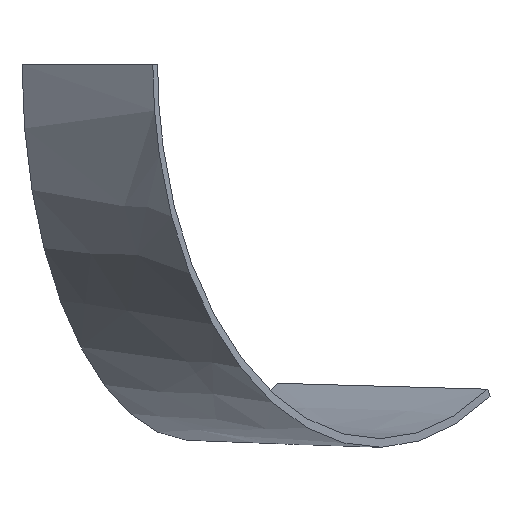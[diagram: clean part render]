
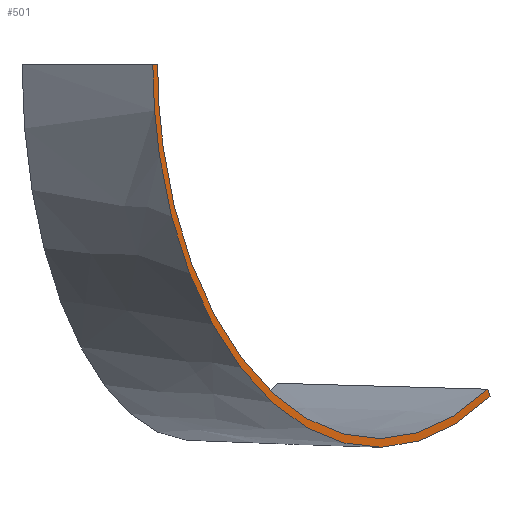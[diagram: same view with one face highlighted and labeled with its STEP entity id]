
A CAD part, left-side view. The second image highlights one B-rep face of the part: STEP entity #501.
In plain terms, the highlighted free-form (B-spline) face has degree [1, 3] with [2, 10] control points.
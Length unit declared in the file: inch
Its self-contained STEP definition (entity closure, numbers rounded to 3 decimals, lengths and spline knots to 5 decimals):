
#12 = VERTEX_POINT ( 'NONE', #225 ) ;
#50 = CARTESIAN_POINT ( 'NONE',  ( 70.58693, -51.2844, -0.125 ) ) ;
#55 = CARTESIAN_POINT ( 'NONE',  ( 92.29914, -67.04143, -33.48868 ) ) ;
#71 = VERTEX_POINT ( 'NONE', #499 ) ;
#72 = CARTESIAN_POINT ( 'NONE',  ( 70.58693, -51.2844, -0.125 ) ) ;
#78 = B_SPLINE_CURVE_WITH_KNOTS ( 'NONE', 1,
 ( #72, #587 ),
 .UNSPECIFIED., .F., .F.,
 ( 2, 2 ),
 ( 0., 1. ),
 .UNSPECIFIED. ) ;
#86 = CARTESIAN_POINT ( 'NONE',  ( 69.96491, -50.86537, -0.12786 ) ) ;
#87 = CARTESIAN_POINT ( 'NONE',  ( 110.24202, -80.09551, -28.42463 ) ) ;
#94 = CARTESIAN_POINT ( 'NONE',  ( 92.29914, -67.04143, -33.48868 ) ) ;
#100 = CARTESIAN_POINT ( 'NONE',  ( 69.98302, -50.87849, -5.98634 ) ) ;
#109 = B_SPLINE_CURVE_WITH_KNOTS ( 'NONE', 3,
 ( #189, #143, #560, #55, #603, #377, #194, #463, #100, #374 ),
 .UNSPECIFIED., .F., .F.,
 ( 4, 2, 2, 2, 4 ),
 ( 0., 0.25, 0.5, 0.75, 1. ),
 .UNSPECIFIED. ) ;
#120 = CARTESIAN_POINT ( 'NONE',  ( 110.24202, -80.09551, -28.42463 ) ) ;
#143 = CARTESIAN_POINT ( 'NONE',  ( 106.4541, -77.29153, -31.98436 ) ) ;
#144 = CARTESIAN_POINT ( 'NONE',  ( 69.98302, -50.87849, -5.98635 ) ) ;
#145 = CARTESIAN_POINT ( 'NONE',  ( 79.82156, -57.99376, -25.4986 ) ) ;
#160 = VERTEX_POINT ( 'NONE', #414 ) ;
#175 = ORIENTED_EDGE ( 'NONE', *, *, #205, .F. ) ;
#185 = CARTESIAN_POINT ( 'NONE',  ( 87.84721, -63.82474, -31.22606 ) ) ;
#189 = CARTESIAN_POINT ( 'NONE',  ( 110.57219, -80.27342, -29.07411 ) ) ;
#194 = CARTESIAN_POINT ( 'NONE',  ( 76.00526, -55.24077, -21.87332 ) ) ;
#205 = EDGE_CURVE ( 'NONE', #340, #160, #109, .T. ) ;
#209 = B_SPLINE_SURFACE_WITH_KNOTS ( 'NONE', 1, 3, ( 
 ( #86, #144, #371, #556, #238, #326, #94, #280, #461, #513 ),
 ( #363, #548, #453, #412, #595, #185, #366, #275, #477, #293 ) ),
 .UNSPECIFIED., .F., .F., .F.,
 ( 2, 2 ),
 ( 4, 2, 2, 2, 4 ),
 ( 0., 1. ),
 ( 0., 0.25, 0.5, 0.75, 1. ),
 .UNSPECIFIED. ) ;
#225 = CARTESIAN_POINT ( 'NONE',  ( 70.58693, -51.2844, -0.125 ) ) ;
#237 = B_SPLINE_CURVE_WITH_KNOTS ( 'NONE', 3,
 ( #87, #242, #239, #284, #282, #145, #558, #511, #553, #50 ),
 .UNSPECIFIED., .F., .F.,
 ( 4, 2, 2, 2, 4 ),
 ( 0., 0.25, 0.5, 0.75, 1. ),
 .UNSPECIFIED. ) ;
#238 = CARTESIAN_POINT ( 'NONE',  ( 79.42056, -57.7145, -26.08253 ) ) ;
#239 = CARTESIAN_POINT ( 'NONE',  ( 101.66508, -73.86401, -32.76087 ) ) ;
#242 = CARTESIAN_POINT ( 'NONE',  ( 106.22038, -77.17362, -31.2694 ) ) ;
#246 = EDGE_CURVE ( 'NONE', #71, #12, #237, .T. ) ;
#269 = CARTESIAN_POINT ( 'NONE',  ( 110.57219, -80.27342, -29.07411 ) ) ;
#275 = CARTESIAN_POINT ( 'NONE',  ( 101.66508, -73.86401, -32.76087 ) ) ;
#280 = CARTESIAN_POINT ( 'NONE',  ( 101.78925, -73.91367, -33.51046 ) ) ;
#282 = CARTESIAN_POINT ( 'NONE',  ( 87.84721, -63.82474, -31.22606 ) ) ;
#284 = CARTESIAN_POINT ( 'NONE',  ( 92.39787, -67.13098, -32.73901 ) ) ;
#290 = ORIENTED_EDGE ( 'NONE', *, *, #246, .T. ) ;
#293 = CARTESIAN_POINT ( 'NONE',  ( 110.24202, -80.09551, -28.42463 ) ) ;
#326 = CARTESIAN_POINT ( 'NONE',  ( 87.63896, -63.66659, -31.94117 ) ) ;
#340 = VERTEX_POINT ( 'NONE', #538 ) ;
#363 = CARTESIAN_POINT ( 'NONE',  ( 70.58693, -51.2844, -0.125 ) ) ;
#366 = CARTESIAN_POINT ( 'NONE',  ( 92.39787, -67.13098, -32.73901 ) ) ;
#371 = CARTESIAN_POINT ( 'NONE',  ( 71.24512, -51.79277, -11.73708 ) ) ;
#374 = CARTESIAN_POINT ( 'NONE',  ( 69.96491, -50.86537, -0.12786 ) ) ;
#377 = CARTESIAN_POINT ( 'NONE',  ( 79.42056, -57.7145, -26.08253 ) ) ;
#395 = EDGE_CURVE ( 'NONE', #12, #160, #78, .T. ) ;
#412 = CARTESIAN_POINT ( 'NONE',  ( 76.48622, -55.57049, -21.38375 ) ) ;
#414 = CARTESIAN_POINT ( 'NONE',  ( 69.96491, -50.86537, -0.12786 ) ) ;
#435 = EDGE_LOOP ( 'NONE', ( #542, #290, #519, #175 ) ) ;
#453 = CARTESIAN_POINT ( 'NONE',  ( 71.83729, -52.19285, -11.47444 ) ) ;
#456 = EDGE_CURVE ( 'NONE', #71, #340, #487, .T. ) ;
#461 = CARTESIAN_POINT ( 'NONE',  ( 106.45409, -77.29152, -31.98436 ) ) ;
#463 = CARTESIAN_POINT ( 'NONE',  ( 71.24512, -51.79277, -11.73708 ) ) ;
#477 = CARTESIAN_POINT ( 'NONE',  ( 106.22038, -77.17362, -31.2694 ) ) ;
#487 = B_SPLINE_CURVE_WITH_KNOTS ( 'NONE', 1,
 ( #120, #269 ),
 .UNSPECIFIED., .F., .F.,
 ( 2, 2 ),
 ( 0., 1. ),
 .UNSPECIFIED. ) ;
#499 = CARTESIAN_POINT ( 'NONE',  ( 110.24202, -80.09551, -28.42463 ) ) ;
#501 = ADVANCED_FACE ( 'NONE', ( #552 ), #209, .F. ) ;
#511 = CARTESIAN_POINT ( 'NONE',  ( 71.83729, -52.19285, -11.47444 ) ) ;
#513 = CARTESIAN_POINT ( 'NONE',  ( 110.57219, -80.27342, -29.07411 ) ) ;
#519 = ORIENTED_EDGE ( 'NONE', *, *, #395, .T. ) ;
#538 = CARTESIAN_POINT ( 'NONE',  ( 110.57219, -80.27342, -29.07411 ) ) ;
#542 = ORIENTED_EDGE ( 'NONE', *, *, #456, .F. ) ;
#548 = CARTESIAN_POINT ( 'NONE',  ( 70.60461, -51.29725, -5.85242 ) ) ;
#552 = FACE_OUTER_BOUND ( 'NONE', #435, .T. ) ;
#553 = CARTESIAN_POINT ( 'NONE',  ( 70.60461, -51.29725, -5.85242 ) ) ;
#556 = CARTESIAN_POINT ( 'NONE',  ( 76.00526, -55.24077, -21.87332 ) ) ;
#558 = CARTESIAN_POINT ( 'NONE',  ( 76.48622, -55.57049, -21.38375 ) ) ;
#560 = CARTESIAN_POINT ( 'NONE',  ( 101.78925, -73.91367, -33.51046 ) ) ;
#587 = CARTESIAN_POINT ( 'NONE',  ( 69.96491, -50.86537, -0.12786 ) ) ;
#595 = CARTESIAN_POINT ( 'NONE',  ( 79.82156, -57.99376, -25.4986 ) ) ;
#603 = CARTESIAN_POINT ( 'NONE',  ( 87.63896, -63.66659, -31.94117 ) ) ;
